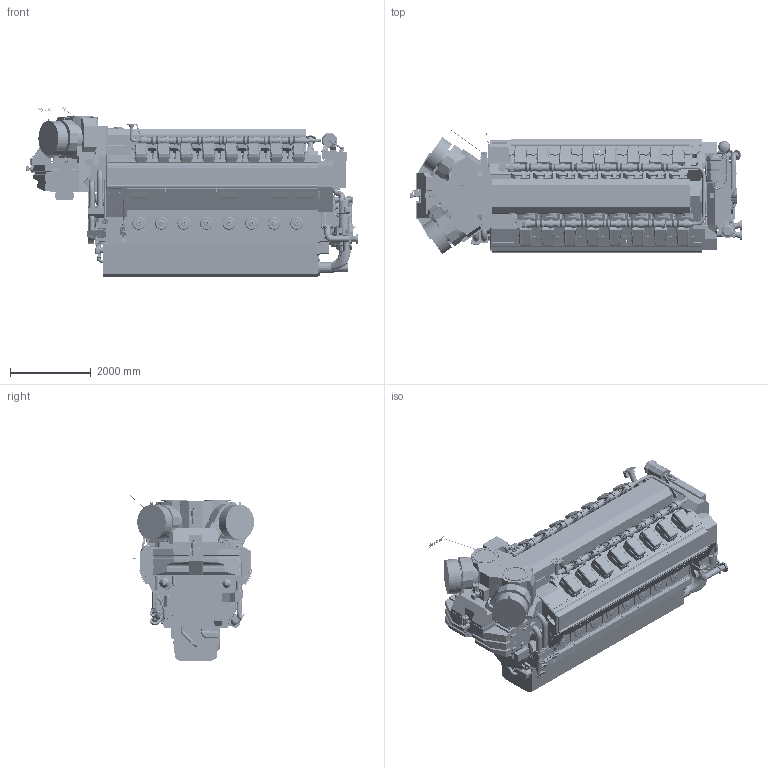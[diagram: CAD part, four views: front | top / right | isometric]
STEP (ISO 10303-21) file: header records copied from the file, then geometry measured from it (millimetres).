
FILE_DESCRIPTION(/* description */ (''),/* implementation_level */ '2;1');
FILE_NAME(/* name */ 'DAAF380214_A.stp',/* time_stamp */ '2022-01-12T13:58:46+02:00',/* author */ (''),/* organization */ (''),/* preprocessor_version */ 'ST-DEVELOPER v16.7',/* originating_system */ 'SIEMENS PLM Software NX 1915',/* authorisation */ '');
FILE_SCHEMA (('AUTOMOTIVE_DESIGN { 1 0 10303 214 3 1 1 1 }'));
Products named in the file (74): PABA336739--_Cover; PABA337764--_Body; PABA173946--_Nitrogen gas pipe; PABA274494--_flywheel; PAAF406153--_STARTING AIR PIPE_MODEL; 0032A047800-B_FLANGE_MODEL; PAAF064590--_COVERS; PABA002081--_Main cabinet 2nd gen unic; PABA002426--_Oil mist detector DN150_ Dr Horn DN125; PAAF195815--_COVERS; PABA068010--_Gas feed pipe between banks; PAAF166694--_MOTOR; PABA066964--_Double wall gas vent system; PABA068052--_Gas bellows; PABA065852--_Gas feed pipe from roof; PABA068023--_Gas manifold; PAAF245462--_LUBRICATING OIL PIPES; PAAF245312--_END COVER; PAAF087147--_OIL SUCTION PIPE; PAAF074448--_WET SUMP; PAAF074389--_END COVER; PAAF308706--_CHARGE AIR SYSTEM; PABA039601--_Covers for air ducts Napier NT1-10; PAAF783084--_WASTE GATE _ BY-PASS; PABA039759--_Fastening equipment for charge air cooler; PAAF308705--_TURBOCHARGER; PAAF243353--_LT-WATER PIPE; PABA134891--_Electrical equipment tor NT1-10_ TCD; PAAF078708--_ACTUATOR; PAAF243367--_GOVERNOR; PAAF313559--_CLEANING DEVICE; PAAF785461--_COVERS; PAAF313561--_INSULATION BOX; PAAF066763--_INSULATING BOX; PAAF093851--_WATER PIPE; PAAF078635--_LT-WATER SYSTEM; PAAF077590--_THERMOSTATIC VALVE; PAAF221967--_WATER PUMP; PAAF078609--_HT-WATER SYSTEM; PAAF078607--_HT-WATER PIPES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
Assembly tree (110 placements, depth 4):
  DAAF380214_A-Outline drawing
    PABA337973--_W16V34DFC-TCD-WET
      PABA034609--_Cylinder heads and multiducts 16V
      PAAF063635--_ENGINE BLOCK
      PAAF238216--_CRANKSHAFT
      PABA034962--_End cover for camshaft B-bank
      PAAF295070--_INTERMEDIATE GEAR
      PABA001563--_Shut-down mechanism
      PABA001817--_Covers for crankcase and camshaft
      PABA052452--_Covers for air bottle_ noise reduction
      PABA201394--_Covers top shields
      PABA052426--_Cylinder head covers 16V
      PAAF078522--_FUEL PIPES
      PAAF078123--_COVER
      PAAF087083--_LEAK FUEL SYSTEM
      PAAF074394--_PUMP COVER
      PAAF304653--_PUMP COVER
      PAAF087113--_LEAK FUEL SYSTEM
      PAAF087117--_LEAK FUEL SYSTEM
      PAAF247464--_FRAME
      PAAF087123--_LEAK FUEL PIPES
      PAAF078077--_TURNING DEVICE
      PAAF245056--_LUBRICATING OIL PUMP
      PAAF243370--_PRELUBRICATING PUMP
      PAAF087128--_OIL PIPE
      PAAF087127--_LUBE OIL SYSTEM
      PAAF078535--_COOLING WATER PIPES
      PAAF074412--_LUBE OIL MODULE
      PAAF090571--_LUBRICATING OIL PIPES
      PAAF221638--_WATER PUMP
      PAAF077589--_CONNECTING PIECE
      PAAF093826--_WATER PIPE
      PAAF078607--_HT-WATER PIPES
      PAAF078609--_HT-WATER SYSTEM
      PAAF221967--_WATER PUMP
      PAAF077590--_THERMOSTATIC VALVE  x2
      PAAF078635--_LT-WATER SYSTEM
      PAAF093851--_WATER PIPE
      PAAF066763--_INSULATING BOX
      PAAF313561--_INSULATION BOX
      PAAF785461--_COVERS
      PAAF313559--_CLEANING DEVICE
      PAAF243367--_GOVERNOR
      PAAF078708--_ACTUATOR  x2
      PABA134891--_Electrical equipment tor NT1-10_ TCD
      PAAF243353--_LT-WATER PIPE
      PABA337763--_Electrical equipment for side cover_MODEL
        PABA337764--_Body
        PABA336739--_Cover  x8
      PAAF308705--_TURBOCHARGER
      PABA039759--_Fastening equipment for charge air cooler
      PAAF783084--_WASTE GATE _ BY-PASS
      PABA039601--_Covers for air ducts Napier NT1-10
      PAAF308706--_CHARGE AIR SYSTEM
      PAAF074389--_END COVER
      PAAF074448--_WET SUMP
      PAAF087147--_OIL SUCTION PIPE
      PAAF245312--_END COVER
      PAAF245462--_LUBRICATING OIL PIPES
      PABA068023--_Gas manifold  x16
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Bounding box: 8239.67 x 3081.17 x 4212.62 mm (x, y, z)
Volume: 32297570284.6 mm3; surface area: 376278840.1 mm2
Topology: 464 solids, 628 shells, 20871 faces, 51266 edges, 32660 vertices
Faces by surface type: plane 10705, cylinder 5502, bspline 3012, torus 916, extrusion 426, cone 251, sphere 44, revolution 15
Full cylindrical faces by diameter (mm): 0.107 x1, 3.3 x16, 6 x14, 8 x17, 8.5 x1, 8.993 x3, 9 x1, 9.5 x1, 9.685 x1, 10 x28, 11 x21, 11.908 x1, 11.995 x1, 12 x7, 13.2 x4, 13.5 x4, 14 x64, 14.596 x1, 15 x24, 15.5 x4, 15.7 x4, 16 x13, 16.5 x3, 16.658 x1, 17 x2, 17.5 x4, 17.997 x1, 18 x112, 19 x2, 20 x8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
Entity records: 676365 total; most frequent: CARTESIAN_POINT 245567, ORIENTED_EDGE 88286, DIRECTION 83853, EDGE_CURVE 44143, AXIS2_PLACEMENT_3D 28959, VERTEX_POINT 28807, VECTOR 25920, LINE 25662
